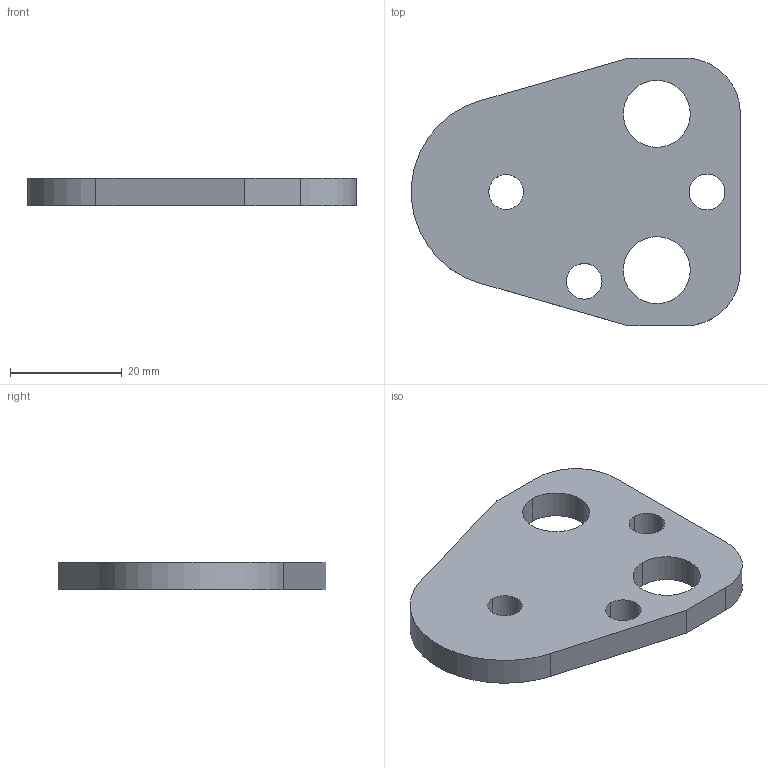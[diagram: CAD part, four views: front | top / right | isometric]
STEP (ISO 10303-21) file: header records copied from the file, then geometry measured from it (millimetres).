
FILE_DESCRIPTION(/* description */ (''),/* implementation_level */ '2;1');
FILE_NAME(/* name */ '3d_bpc20_03417_r00.stp',/* time_stamp */ '2011-01-10T14:17:10+09:00',/* author */ ('MISUMI'),/* organization */ (''),/* preprocessor_version */ 'ST-DEVELOPER v11',/* originating_system */ 'UGS - NX 5.0',/* authorisation */ '');
FILE_SCHEMA (('CONFIG_CONTROL_DESIGN'));
Length unit declared in the file: millimetre
Products named in the file (1): 3d_bpc20_03417_r00
Bounding box: 58.94 x 48 x 5 mm (x, y, z)
Volume: 9847.9 mm3; surface area: 5508.9 mm2
Topology: 1 solids, 1 shells, 20 faces, 54 edges, 36 vertices
Faces by surface type: cylinder 13, plane 7
Entity records: 750 total; most frequent: DIRECTION 122, CARTESIAN_POINT 111, ORIENTED_EDGE 108, EDGE_CURVE 54, AXIS2_PLACEMENT_3D 47, VERTEX_POINT 36, EDGE_LOOP 30, LINE 28
